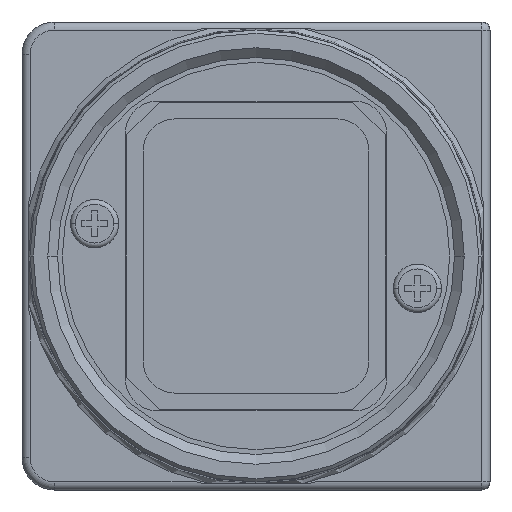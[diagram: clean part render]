
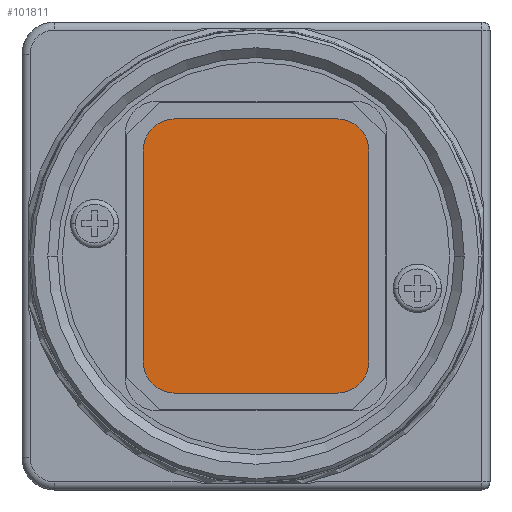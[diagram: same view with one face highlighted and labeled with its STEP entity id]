
A CAD part, left-side view. The second image highlights one B-rep face of the part: STEP entity #101811.
In plain terms, the highlighted planar face has unit normal (-1, 0, 0).
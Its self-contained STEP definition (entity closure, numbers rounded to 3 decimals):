
#15902=DIRECTION('',(0.,0.,1.));
#15903=VECTOR('',#15902,13.);
#15904=CARTESIAN_POINT('',(21.536,54.19,-6.5));
#15905=LINE('',#15904,#15903);
#15909=CARTESIAN_POINT('',(21.536,52.19,6.5));
#15910=DIRECTION('',(1.,0.,0.));
#15911=DIRECTION('',(0.,1.,0.));
#15912=AXIS2_PLACEMENT_3D('',#15909,#15910,#15911);
#15917=DIRECTION('',(0.,-1.,0.));
#15918=VECTOR('',#15917,10.);
#15919=CARTESIAN_POINT('',(21.536,52.19,8.5));
#15920=LINE('',#15919,#15918);
#15924=CARTESIAN_POINT('',(21.536,42.19,6.5));
#15925=DIRECTION('',(1.,0.,0.));
#15926=DIRECTION('',(0.,0.,1.));
#15927=AXIS2_PLACEMENT_3D('',#15924,#15925,#15926);
#15932=DIRECTION('',(0.,0.,-1.));
#15933=VECTOR('',#15932,13.);
#15934=CARTESIAN_POINT('',(21.536,40.19,6.5));
#15935=LINE('',#15934,#15933);
#15939=CARTESIAN_POINT('',(21.536,42.19,-6.5));
#15940=DIRECTION('',(1.,0.,0.));
#15941=DIRECTION('',(0.,-1.,0.));
#15942=AXIS2_PLACEMENT_3D('',#15939,#15940,#15941);
#15947=DIRECTION('',(0.,1.,0.));
#15948=VECTOR('',#15947,10.);
#15949=CARTESIAN_POINT('',(21.536,42.19,-8.5));
#15950=LINE('',#15949,#15948);
#15954=CARTESIAN_POINT('',(21.536,52.19,-6.5));
#15955=DIRECTION('',(1.,0.,0.));
#15956=DIRECTION('',(0.,0.,-1.));
#15957=AXIS2_PLACEMENT_3D('',#15954,#15955,#15956);
#86767=CARTESIAN_POINT('',(21.536,40.19,6.5));
#86768=VERTEX_POINT('',#86767);
#86769=CARTESIAN_POINT('',(21.536,40.19,-6.5));
#86770=VERTEX_POINT('',#86769);
#86771=CARTESIAN_POINT('',(21.536,42.19,8.5));
#86772=VERTEX_POINT('',#86771);
#86773=CARTESIAN_POINT('',(21.536,54.19,-6.5));
#86774=CARTESIAN_POINT('',(21.536,54.19,6.5));
#86775=VERTEX_POINT('',#86773);
#86776=VERTEX_POINT('',#86774);
#86777=CARTESIAN_POINT('',(21.536,52.19,8.5));
#86778=VERTEX_POINT('',#86777);
#86779=CARTESIAN_POINT('',(21.536,42.19,-8.5));
#86780=VERTEX_POINT('',#86779);
#86781=CARTESIAN_POINT('',(21.536,52.19,-8.5));
#86782=VERTEX_POINT('',#86781);
#101790=CARTESIAN_POINT('',(21.536,52.065,0.));
#101791=DIRECTION('',(1.,0.,0.));
#101792=DIRECTION('',(0.,-1.,0.));
#101793=AXIS2_PLACEMENT_3D('',#101790,#101791,#101792);
#101794=PLANE('',#101793);
#101796=ORIENTED_EDGE('',*,*,#101795,.T.);
#101798=ORIENTED_EDGE('',*,*,#101797,.T.);
#101800=ORIENTED_EDGE('',*,*,#101799,.T.);
#101801=ORIENTED_EDGE('',*,*,#101770,.T.);
#101802=ORIENTED_EDGE('',*,*,#101747,.T.);
#101804=ORIENTED_EDGE('',*,*,#101803,.T.);
#101806=ORIENTED_EDGE('',*,*,#101805,.T.);
#101808=ORIENTED_EDGE('',*,*,#101807,.T.);
#101809=EDGE_LOOP('',(#101796,#101798,#101800,#101801,#101802,#101804,#101806,
#101808));
#101810=FACE_OUTER_BOUND('',#101809,.F.);
#15913=CIRCLE('',#15912,2.);
#15928=CIRCLE('',#15927,2.);
#15943=CIRCLE('',#15942,2.);
#15958=CIRCLE('',#15957,2.);
#101747=EDGE_CURVE('',#86768,#86770,#15935,.T.);
#101770=EDGE_CURVE('',#86772,#86768,#15928,.T.);
#101795=EDGE_CURVE('',#86775,#86776,#15905,.T.);
#101797=EDGE_CURVE('',#86776,#86778,#15913,.T.);
#101799=EDGE_CURVE('',#86778,#86772,#15920,.T.);
#101803=EDGE_CURVE('',#86770,#86780,#15943,.T.);
#101805=EDGE_CURVE('',#86780,#86782,#15950,.T.);
#101807=EDGE_CURVE('',#86782,#86775,#15958,.T.);
#101811=ADVANCED_FACE('',(#101810),#101794,.F.);
